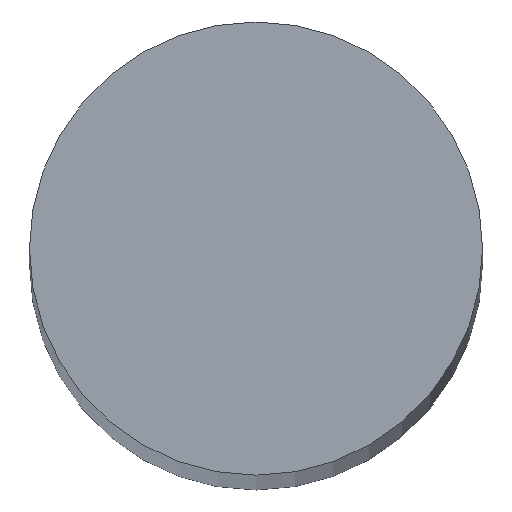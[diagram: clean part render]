
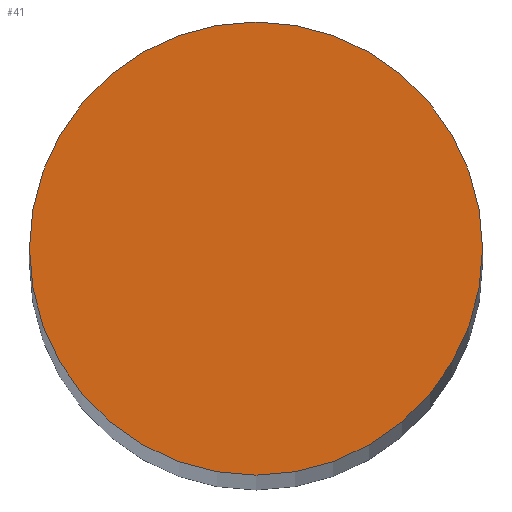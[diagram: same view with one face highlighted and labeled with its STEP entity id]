
A CAD part, top view. The second image highlights one B-rep face of the part: STEP entity #41.
In plain terms, the highlighted planar face has unit normal (0, 0, 1).
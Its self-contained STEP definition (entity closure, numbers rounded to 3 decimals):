
#16=PLANE('',#66);
#19=FACE_OUTER_BOUND('',#22,.T.);
#22=EDGE_LOOP('',(#37));
#25=CIRCLE('',#63,8.);
#27=VERTEX_POINT('',#82);
#29=EDGE_CURVE('',#27,#27,#25,.T.);
#37=ORIENTED_EDGE('',*,*,#29,.T.);
#41=ADVANCED_FACE('',(#19),#16,.T.);
#63=AXIS2_PLACEMENT_3D('',#83,#71,#72);
#66=AXIS2_PLACEMENT_3D('',#88,#78,#79);
#71=DIRECTION('center_axis',(0.,0.,1.));
#72=DIRECTION('ref_axis',(-1.,0.,0.));
#78=DIRECTION('center_axis',(0.,0.,1.));
#79=DIRECTION('ref_axis',(1.,0.,0.));
#82=CARTESIAN_POINT('',(8.,0.,300.));
#83=CARTESIAN_POINT('Origin',(0.,0.,300.));
#88=CARTESIAN_POINT('Origin',(0.,0.,
300.));
